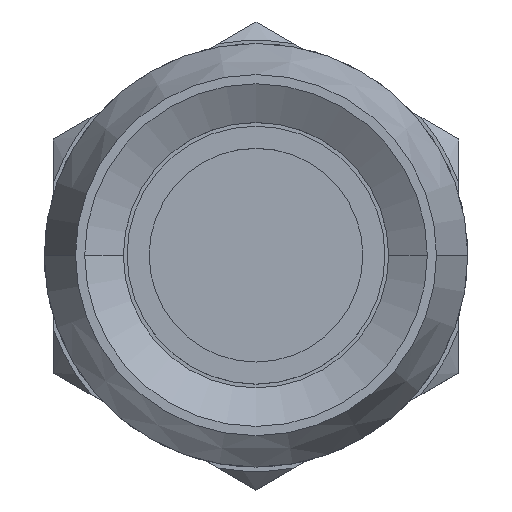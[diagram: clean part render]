
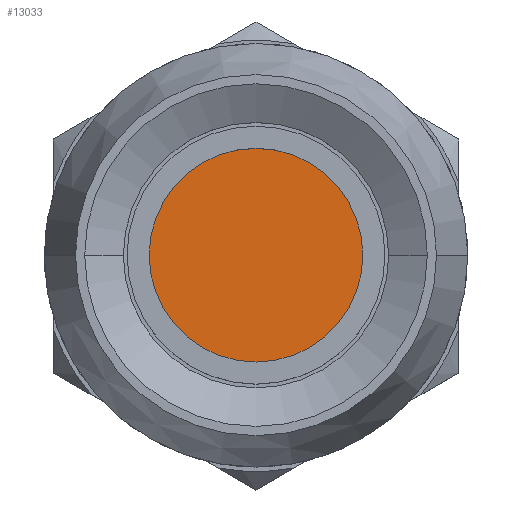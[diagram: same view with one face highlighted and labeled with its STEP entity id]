
A CAD part, top view. The second image highlights one B-rep face of the part: STEP entity #13033.
In plain terms, the highlighted planar face has unit normal (0, 0, 1).
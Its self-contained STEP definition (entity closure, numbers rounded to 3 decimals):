
#520 = EDGE_CURVE ( 'NONE', #9674, #4956, #11666, .T. ) ;
#1881 = CARTESIAN_POINT ( 'NONE',  ( 2.9, 0., 0.5 ) ) ;
#2391 = CARTESIAN_POINT ( 'NONE',  ( 0., 0., 0.5 ) ) ;
#3479 = CARTESIAN_POINT ( 'NONE',  ( -2.9, 0., 0.5 ) ) ;
#3693 = DIRECTION ( 'NONE',  ( 1., 0., 0. ) ) ;
#4122 = AXIS2_PLACEMENT_3D ( 'NONE', #16727, #6345, #15562 ) ;
#4250 = EDGE_CURVE ( 'NONE', #4956, #9674, #7620, .T. ) ;
#4915 = CARTESIAN_POINT ( 'NONE',  ( 0., 0., 0.5 ) ) ;
#4956 = VERTEX_POINT ( 'NONE', #1881 ) ;
#5023 = PLANE ( 'NONE',  #4122 ) ;
#5385 = AXIS2_PLACEMENT_3D ( 'NONE', #2391, #11563, #3693 ) ;
#6232 = DIRECTION ( 'NONE',  ( 1., 0., 0. ) ) ;
#6345 = DIRECTION ( 'NONE',  ( 0., 0., 1. ) ) ;
#7620 = CIRCLE ( 'NONE', #5385, 2.9 ) ;
#7713 = AXIS2_PLACEMENT_3D ( 'NONE', #4915, #14114, #6232 ) ;
#8096 = EDGE_LOOP ( 'NONE', ( #16288, #14152 ) ) ;
#9674 = VERTEX_POINT ( 'NONE', #3479 ) ;
#11460 = FACE_OUTER_BOUND ( 'NONE', #8096, .T. ) ;
#11563 = DIRECTION ( 'NONE',  ( 0., 0., 1. ) ) ;
#11666 = CIRCLE ( 'NONE', #7713, 2.9 ) ;
#13033 = ADVANCED_FACE ( 'NONE', ( #11460 ), #5023, .T. ) ;
#14114 = DIRECTION ( 'NONE',  ( 0., 0., 1. ) ) ;
#14152 = ORIENTED_EDGE ( 'NONE', *, *, #520, .T. ) ;
#15562 = DIRECTION ( 'NONE',  ( 1., 0., 0. ) ) ;
#16288 = ORIENTED_EDGE ( 'NONE', *, *, #4250, .T. ) ;
#16727 = CARTESIAN_POINT ( 'NONE',  ( 0., 0., 0.5 ) ) ;
